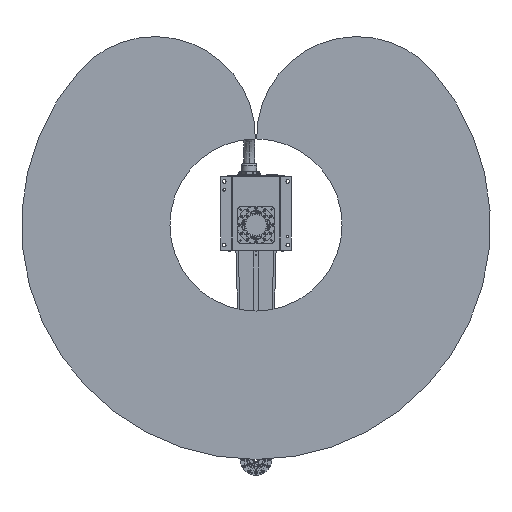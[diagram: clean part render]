
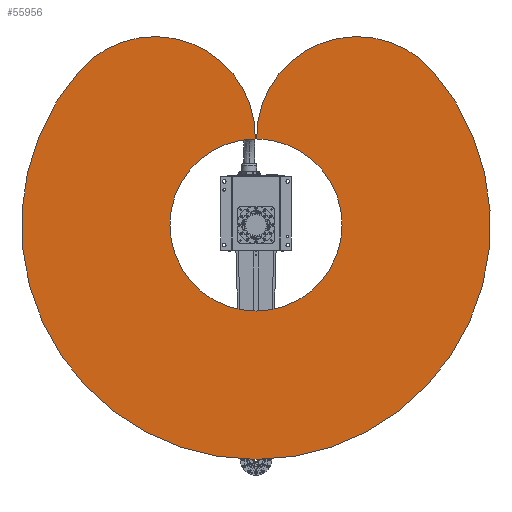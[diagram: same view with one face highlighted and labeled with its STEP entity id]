
A CAD part, front view. The second image highlights one B-rep face of the part: STEP entity #55956.
In plain terms, the highlighted planar face has unit normal (0, -1, 0).
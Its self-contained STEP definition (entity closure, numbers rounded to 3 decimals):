
#1628 = DIRECTION ( 'NONE',  ( 0., 1., 0. ) ) ;
#3158 = CARTESIAN_POINT ( 'NONE',  ( 528.297, 0., 459.241 ) ) ;
#3462 = ORIENTED_EDGE ( 'NONE', *, *, #24428, .F. ) ;
#6962 = VERTEX_POINT ( 'NONE', #32036 ) ;
#9149 = AXIS2_PLACEMENT_3D ( 'NONE', #85129, #85005, #84985 ) ;
#11005 = AXIS2_PLACEMENT_3D ( 'NONE', #35757, #54828, #15574 ) ;
#12179 = VERTEX_POINT ( 'NONE', #73368 ) ;
#12390 = EDGE_CURVE ( 'NONE', #45670, #66112, #16379, .T. ) ;
#14072 = CARTESIAN_POINT ( 'NONE',  ( 0., 0., 0. ) ) ;
#15574 = DIRECTION ( 'NONE',  ( 0., 0., 1. ) ) ;
#16379 = CIRCLE ( 'NONE', #70184, 700. ) ;
#16927 = AXIS2_PLACEMENT_3D ( 'NONE', #34616, #34271, #34033 ) ;
#19041 = ORIENTED_EDGE ( 'NONE', *, *, #51624, .F. ) ;
#21714 = EDGE_CURVE ( 'NONE', #60330, #45670, #26718, .T. ) ;
#24428 = EDGE_CURVE ( 'NONE', #6962, #45382, #81685, .T. ) ;
#26718 = CIRCLE ( 'NONE', #11005, 300. ) ;
#32036 = CARTESIAN_POINT ( 'NONE',  ( -1.933, 0., 256.993 ) ) ;
#34033 = DIRECTION ( 'NONE',  ( 0., 0., 1. ) ) ;
#34271 = DIRECTION ( 'NONE',  ( 0., 1., 0. ) ) ;
#34303 = EDGE_CURVE ( 'NONE', #12179, #6962, #76327, .T. ) ;
#34370 = PLANE ( 'NONE',  #16927 ) ;
#34393 = FACE_OUTER_BOUND ( 'NONE', #55466, .T. ) ;
#34616 = CARTESIAN_POINT ( 'NONE',  ( -150.942, 0., 131.212 ) ) ;
#34951 = ORIENTED_EDGE ( 'NONE', *, *, #21714, .F. ) ;
#35757 = CARTESIAN_POINT ( 'NONE',  ( 301.884, 0., 262.424 ) ) ;
#45382 = VERTEX_POINT ( 'NONE', #63691 ) ;
#45670 = VERTEX_POINT ( 'NONE', #3158 ) ;
#45925 = DIRECTION ( 'NONE',  ( 0., 0., 1. ) ) ;
#46022 = DIRECTION ( 'NONE',  ( 0., -1., 0. ) ) ;
#46058 = CARTESIAN_POINT ( 'NONE',  ( 0., 0., 0. ) ) ;
#48652 = ORIENTED_EDGE ( 'NONE', *, *, #60044, .F. ) ;
#50009 = AXIS2_PLACEMENT_3D ( 'NONE', #46058, #46022, #45925 ) ;
#50977 = DIRECTION ( 'NONE',  ( 0., -1., 0. ) ) ;
#51179 = DIRECTION ( 'NONE',  ( 0., 0., 1. ) ) ;
#51323 = CARTESIAN_POINT ( 'NONE',  ( 0., 0., 0. ) ) ;
#51624 = EDGE_CURVE ( 'NONE', #45382, #60330, #83030, .T. ) ;
#54828 = DIRECTION ( 'NONE',  ( 0., 1., 0. ) ) ;
#55466 = EDGE_LOOP ( 'NONE', ( #82294, #48652, #61396, #34951, #19041, #3462 ) ) ;
#55956 = ADVANCED_FACE ( 'NONE', ( #34393 ), #34370, .F. ) ;
#57032 = DIRECTION ( 'NONE',  ( 0., 0., 1. ) ) ;
#58601 = CARTESIAN_POINT ( 'NONE',  ( 0., 0., -700. ) ) ;
#60044 = EDGE_CURVE ( 'NONE', #66112, #12179, #95118, .T. ) ;
#60330 = VERTEX_POINT ( 'NONE', #82763 ) ;
#61396 = ORIENTED_EDGE ( 'NONE', *, *, #12390, .F. ) ;
#63691 = CARTESIAN_POINT ( 'NONE',  ( 0., 0., -257. ) ) ;
#66112 = VERTEX_POINT ( 'NONE', #58601 ) ;
#70184 = AXIS2_PLACEMENT_3D ( 'NONE', #14072, #1628, #57032 ) ;
#73368 = CARTESIAN_POINT ( 'NONE',  ( -528.297, 0., 459.241 ) ) ;
#76327 = CIRCLE ( 'NONE', #9149, 300. ) ;
#81685 = CIRCLE ( 'NONE', #93051, 257. ) ;
#82294 = ORIENTED_EDGE ( 'NONE', *, *, #34303, .F. ) ;
#82763 = CARTESIAN_POINT ( 'NONE',  ( 1.933, 0., 256.993 ) ) ;
#83030 = CIRCLE ( 'NONE', #50009, 257. ) ;
#84985 = DIRECTION ( 'NONE',  ( 0., 0., 1. ) ) ;
#85005 = DIRECTION ( 'NONE',  ( 0., 1., 0. ) ) ;
#85129 = CARTESIAN_POINT ( 'NONE',  ( -301.884, 0., 262.424 ) ) ;
#90836 = AXIS2_PLACEMENT_3D ( 'NONE', #96000, #95977, #95869 ) ;
#93051 = AXIS2_PLACEMENT_3D ( 'NONE', #51323, #50977, #51179 ) ;
#95118 = CIRCLE ( 'NONE', #90836, 700. ) ;
#95869 = DIRECTION ( 'NONE',  ( 0., 0., 1. ) ) ;
#95977 = DIRECTION ( 'NONE',  ( 0., 1., 0. ) ) ;
#96000 = CARTESIAN_POINT ( 'NONE',  ( 0., 0., 0. ) ) ;
